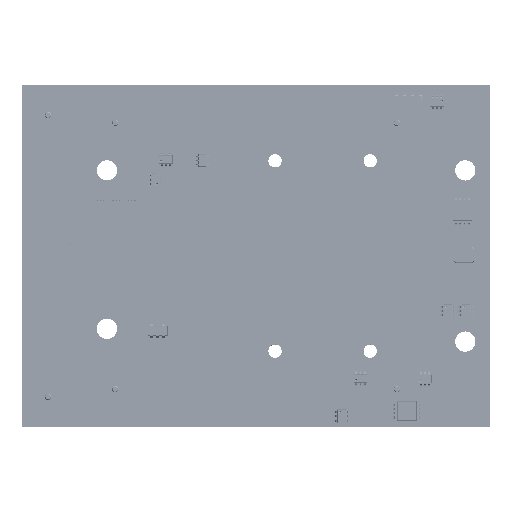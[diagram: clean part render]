
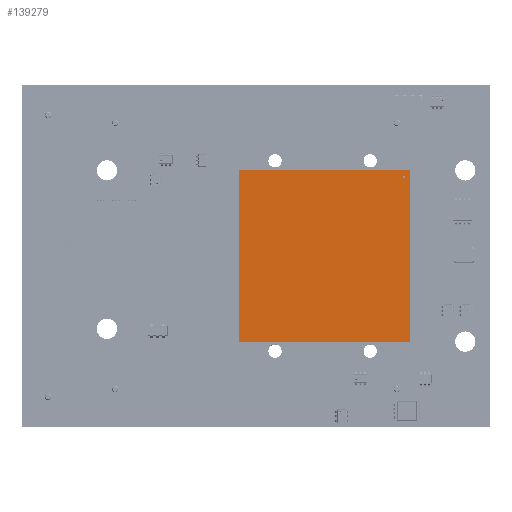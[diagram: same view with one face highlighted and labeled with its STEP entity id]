
A CAD part, top view. The second image highlights one B-rep face of the part: STEP entity #139279.
In plain terms, the highlighted planar face has unit normal (0, 0, 1).
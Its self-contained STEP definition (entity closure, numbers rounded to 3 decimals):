
#138965 = VERTEX_POINT('',#138966);
#138966 = CARTESIAN_POINT('',(13.5,13.5,3.37));
#138973 = PLANE('',#138974);
#138974 = AXIS2_PLACEMENT_3D('',#138975,#138976,#138977);
#138975 = CARTESIAN_POINT('',(13.5,13.5,0.));
#138976 = DIRECTION('',(0.,-1.,0.));
#138977 = DIRECTION('',(-1.,0.,0.));
#138985 = PLANE('',#138986);
#138986 = AXIS2_PLACEMENT_3D('',#138987,#138988,#138989);
#138987 = CARTESIAN_POINT('',(13.5,-13.5,0.));
#138988 = DIRECTION('',(-1.,0.,0.));
#138989 = DIRECTION('',(0.,1.,0.));
#138997 = EDGE_CURVE('',#138965,#138998,#139000,.T.);
#138998 = VERTEX_POINT('',#138999);
#138999 = CARTESIAN_POINT('',(-13.5,13.5,3.37));
#139000 = SURFACE_CURVE('',#139001,(#139005,#139012),.PCURVE_S1.);
#139001 = LINE('',#139002,#139003);
#139002 = CARTESIAN_POINT('',(13.5,13.5,3.37));
#139003 = VECTOR('',#139004,1.);
#139004 = DIRECTION('',(-1.,0.,0.));
#139005 = PCURVE('',#138973,#139006);
#139006 = DEFINITIONAL_REPRESENTATION('',(#139007),#139011);
#139007 = LINE('',#139008,#139009);
#139008 = CARTESIAN_POINT('',(0.,-3.37));
#139009 = VECTOR('',#139010,1.);
#139010 = DIRECTION('',(1.,0.));
#139011 = ( GEOMETRIC_REPRESENTATION_CONTEXT(2) 
PARAMETRIC_REPRESENTATION_CONTEXT() REPRESENTATION_CONTEXT('2D SPACE',''
  ) );
#139012 = PCURVE('',#139013,#139018);
#139013 = PLANE('',#139014);
#139014 = AXIS2_PLACEMENT_3D('',#139015,#139016,#139017);
#139015 = CARTESIAN_POINT('',(13.5,13.5,3.37));
#139016 = DIRECTION('',(0.,0.,-1.));
#139017 = DIRECTION('',(-1.,0.,0.));
#139018 = DEFINITIONAL_REPRESENTATION('',(#139019),#139023);
#139019 = LINE('',#139020,#139021);
#139020 = CARTESIAN_POINT('',(0.,0.));
#139021 = VECTOR('',#139022,1.);
#139022 = DIRECTION('',(1.,0.));
#139023 = ( GEOMETRIC_REPRESENTATION_CONTEXT(2) 
PARAMETRIC_REPRESENTATION_CONTEXT() REPRESENTATION_CONTEXT('2D SPACE',''
  ) );
#139041 = PLANE('',#139042);
#139042 = AXIS2_PLACEMENT_3D('',#139043,#139044,#139045);
#139043 = CARTESIAN_POINT('',(-13.5,13.5,0.));
#139044 = DIRECTION('',(1.,0.,0.));
#139045 = DIRECTION('',(0.,-1.,0.));
#139083 = EDGE_CURVE('',#138998,#139084,#139086,.T.);
#139084 = VERTEX_POINT('',#139085);
#139085 = CARTESIAN_POINT('',(-13.5,-13.5,3.37));
#139086 = SURFACE_CURVE('',#139087,(#139091,#139098),.PCURVE_S1.);
#139087 = LINE('',#139088,#139089);
#139088 = CARTESIAN_POINT('',(-13.5,13.5,3.37));
#139089 = VECTOR('',#139090,1.);
#139090 = DIRECTION('',(0.,-1.,0.));
#139091 = PCURVE('',#139041,#139092);
#139092 = DEFINITIONAL_REPRESENTATION('',(#139093),#139097);
#139093 = LINE('',#139094,#139095);
#139094 = CARTESIAN_POINT('',(0.,-3.37));
#139095 = VECTOR('',#139096,1.);
#139096 = DIRECTION('',(1.,0.));
#139097 = ( GEOMETRIC_REPRESENTATION_CONTEXT(2) 
PARAMETRIC_REPRESENTATION_CONTEXT() REPRESENTATION_CONTEXT('2D SPACE',''
  ) );
#139098 = PCURVE('',#139013,#139099);
#139099 = DEFINITIONAL_REPRESENTATION('',(#139100),#139104);
#139100 = LINE('',#139101,#139102);
#139101 = CARTESIAN_POINT('',(27.,0.));
#139102 = VECTOR('',#139103,1.);
#139103 = DIRECTION('',(0.,-1.));
#139104 = ( GEOMETRIC_REPRESENTATION_CONTEXT(2) 
PARAMETRIC_REPRESENTATION_CONTEXT() REPRESENTATION_CONTEXT('2D SPACE',''
  ) );
#139122 = PLANE('',#139123);
#139123 = AXIS2_PLACEMENT_3D('',#139124,#139125,#139126);
#139124 = CARTESIAN_POINT('',(-13.5,-13.5,0.));
#139125 = DIRECTION('',(0.,1.,0.));
#139126 = DIRECTION('',(1.,0.,0.));
#139159 = EDGE_CURVE('',#139084,#139160,#139162,.T.);
#139160 = VERTEX_POINT('',#139161);
#139161 = CARTESIAN_POINT('',(13.5,-13.5,3.37));
#139162 = SURFACE_CURVE('',#139163,(#139167,#139174),.PCURVE_S1.);
#139163 = LINE('',#139164,#139165);
#139164 = CARTESIAN_POINT('',(-13.5,-13.5,3.37));
#139165 = VECTOR('',#139166,1.);
#139166 = DIRECTION('',(1.,0.,0.));
#139167 = PCURVE('',#139122,#139168);
#139168 = DEFINITIONAL_REPRESENTATION('',(#139169),#139173);
#139169 = LINE('',#139170,#139171);
#139170 = CARTESIAN_POINT('',(0.,-3.37));
#139171 = VECTOR('',#139172,1.);
#139172 = DIRECTION('',(1.,0.));
#139173 = ( GEOMETRIC_REPRESENTATION_CONTEXT(2) 
PARAMETRIC_REPRESENTATION_CONTEXT() REPRESENTATION_CONTEXT('2D SPACE',''
  ) );
#139174 = PCURVE('',#139013,#139175);
#139175 = DEFINITIONAL_REPRESENTATION('',(#139176),#139180);
#139176 = LINE('',#139177,#139178);
#139177 = CARTESIAN_POINT('',(27.,-27.));
#139178 = VECTOR('',#139179,1.);
#139179 = DIRECTION('',(-1.,0.));
#139180 = ( GEOMETRIC_REPRESENTATION_CONTEXT(2) 
PARAMETRIC_REPRESENTATION_CONTEXT() REPRESENTATION_CONTEXT('2D SPACE',''
  ) );
#139230 = EDGE_CURVE('',#139160,#138965,#139231,.T.);
#139231 = SURFACE_CURVE('',#139232,(#139236,#139243),.PCURVE_S1.);
#139232 = LINE('',#139233,#139234);
#139233 = CARTESIAN_POINT('',(13.5,-13.5,3.37));
#139234 = VECTOR('',#139235,1.);
#139235 = DIRECTION('',(0.,1.,0.));
#139236 = PCURVE('',#138985,#139237);
#139237 = DEFINITIONAL_REPRESENTATION('',(#139238),#139242);
#139238 = LINE('',#139239,#139240);
#139239 = CARTESIAN_POINT('',(0.,-3.37));
#139240 = VECTOR('',#139241,1.);
#139241 = DIRECTION('',(1.,0.));
#139242 = ( GEOMETRIC_REPRESENTATION_CONTEXT(2) 
PARAMETRIC_REPRESENTATION_CONTEXT() REPRESENTATION_CONTEXT('2D SPACE',''
  ) );
#139243 = PCURVE('',#139013,#139244);
#139244 = DEFINITIONAL_REPRESENTATION('',(#139245),#139249);
#139245 = LINE('',#139246,#139247);
#139246 = CARTESIAN_POINT('',(0.,-27.));
#139247 = VECTOR('',#139248,1.);
#139248 = DIRECTION('',(0.,1.));
#139249 = ( GEOMETRIC_REPRESENTATION_CONTEXT(2) 
PARAMETRIC_REPRESENTATION_CONTEXT() REPRESENTATION_CONTEXT('2D SPACE',''
  ) );
#139279 = ADVANCED_FACE('',(#139280),#139013,.F.);
#139280 = FACE_BOUND('',#139281,.T.);
#139281 = EDGE_LOOP('',(#139282,#139283,#139284,#139285));
#139282 = ORIENTED_EDGE('',*,*,#138997,.T.);
#139283 = ORIENTED_EDGE('',*,*,#139083,.T.);
#139284 = ORIENTED_EDGE('',*,*,#139159,.T.);
#139285 = ORIENTED_EDGE('',*,*,#139230,.T.);
